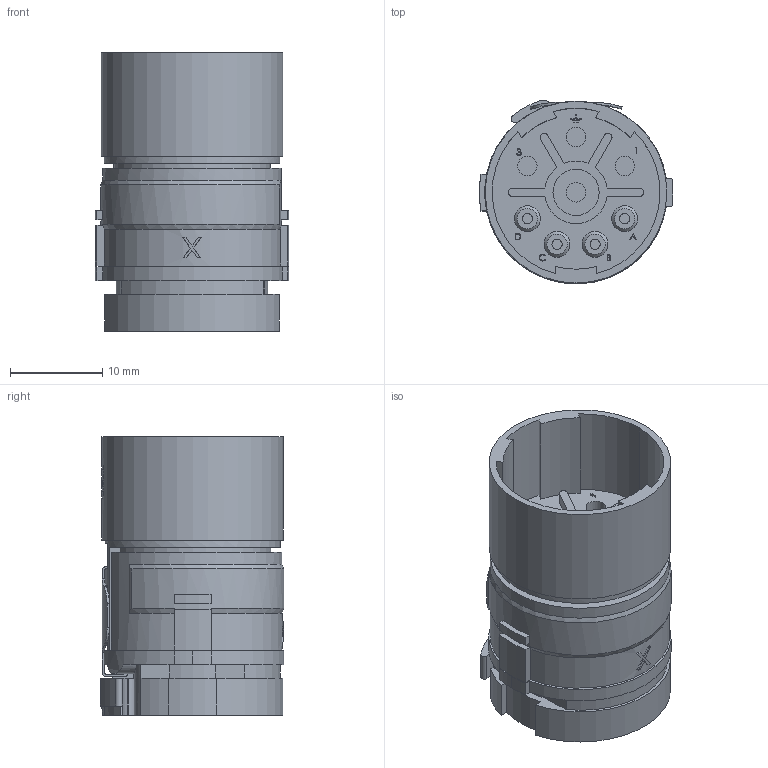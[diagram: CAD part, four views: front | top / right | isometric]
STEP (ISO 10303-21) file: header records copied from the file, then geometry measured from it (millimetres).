
FILE_DESCRIPTION(/* description */ (''),/* implementation_level */ '2;1');
FILE_NAME(/* name */ '100737875ugm000_a.stp',/* time_stamp */ '2017-09-07T14:04:44+02:00',/* author */ (''),/* organization */ (''),/* preprocessor_version */ 'ST-DEVELOPER v16',/* originating_system */ 'SIEMENS PLM Software NX 10.0',/* authorisation */ '');
FILE_SCHEMA (('AUTOMOTIVE_DESIGN { 1 0 10303 214 3 1 1 1 }'));
Length unit declared in the file: millimetre
Products named in the file (1): 100737875ugm000_a
Bounding box: 20.99 x 19.92 x 30.2 mm (x, y, z)
Volume: 6122.4 mm3; surface area: 5762.2 mm2
Topology: 3 solids, 3 shells, 522 faces, 1518 edges, 1156 vertices
Faces by surface type: plane 304, cylinder 150, bspline 49, cone 19
Full cylindrical faces by diameter (mm): 1.1 x4, 2.1 x4, 2.8 x4, 2.94 x4, 4.9 x3, 5 x1, 19.05 x1, 19.7 x1
Entity records: 20207 total; most frequent: CARTESIAN_POINT 6366, ORIENTED_EDGE 2790, DIRECTION 2441, EDGE_CURVE 1395, VERTEX_POINT 980, LINE 823, VECTOR 823, AXIS2_PLACEMENT_3D 809
